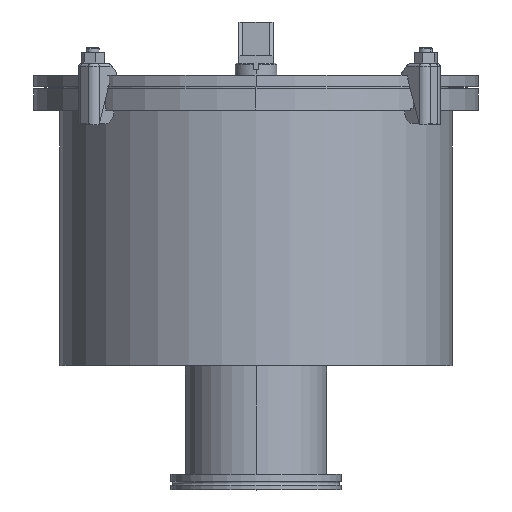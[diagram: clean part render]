
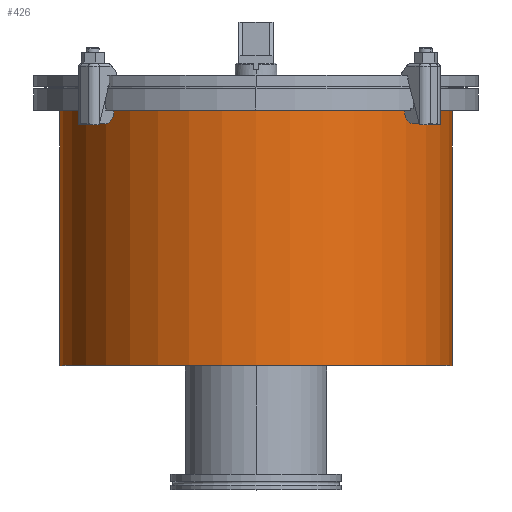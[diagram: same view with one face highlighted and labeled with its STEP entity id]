
A CAD part, top view. The second image highlights one B-rep face of the part: STEP entity #426.
In plain terms, the highlighted cylindrical face has radius 150 mm (diameter 300 mm), a full revolution.
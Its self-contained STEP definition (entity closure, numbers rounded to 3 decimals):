
#156=CARTESIAN_POINT('',(0.,0.,0.));
#157=DIRECTION('',(0.,-1.,0.));
#158=DIRECTION('',(0.866,0.,-0.5));
#159=AXIS2_PLACEMENT_3D('',#156,#157,#158);
#174=CARTESIAN_POINT('',(0.,200.,0.));
#175=DIRECTION('',(0.,1.,0.));
#176=DIRECTION('',(0.866,0.,-0.5));
#177=AXIS2_PLACEMENT_3D('',#174,#175,#176);
#179=DIRECTION('',(0.,-1.,0.));
#180=VECTOR('',#179,200.);
#181=CARTESIAN_POINT('',(129.929,200.,-74.957));
#182=LINE('',#181,#180);
#183=DIRECTION('',(0.,1.,0.));
#184=VECTOR('',#183,200.);
#185=CARTESIAN_POINT('',(129.879,0.,
-75.043));
#186=LINE('',#185,#184);
#187=CARTESIAN_POINT('',(-54.25,125.,-139.846));
#188=CARTESIAN_POINT('',(-54.25,127.993,-139.846));
#189=CARTESIAN_POINT('',(-53.77,134.,-140.034));
#190=CARTESIAN_POINT('',(-51.362,143.357,-140.946));
#191=CARTESIAN_POINT('',(-47.26,152.211,-142.39));
#192=CARTESIAN_POINT('',(-41.777,160.049,-144.113));
#193=CARTESIAN_POINT('',(-34.94,166.867,-145.939));
#194=CARTESIAN_POINT('',(-27.15,172.282,-147.601));
#195=CARTESIAN_POINT('',(-18.596,176.249,-148.931));
#196=CARTESIAN_POINT('',(-9.561,178.678,-149.792));
#197=CARTESIAN_POINT('',(-0.032,179.534,
-150.103));
#198=CARTESIAN_POINT('',(9.501,178.688,-149.795));
#199=CARTESIAN_POINT('',(18.526,176.275,-148.94));
#200=CARTESIAN_POINT('',(27.164,172.286,-147.601));
#201=CARTESIAN_POINT('',(35.085,166.752,-145.905));
#202=CARTESIAN_POINT('',(41.851,159.946,-144.089));
#203=CARTESIAN_POINT('',(47.222,152.257,-142.402));
#204=CARTESIAN_POINT('',(51.296,143.527,-140.971));
#205=CARTESIAN_POINT('',(53.739,134.206,-140.046));
#206=CARTESIAN_POINT('',(54.25,128.081,-139.846));
#207=CARTESIAN_POINT('',(54.25,125.,-139.846));
#209=CARTESIAN_POINT('',(54.25,125.,-139.846));
#210=CARTESIAN_POINT('',(54.25,121.918,-139.846));
#211=CARTESIAN_POINT('',(53.739,115.791,-140.046));
#212=CARTESIAN_POINT('',(51.292,106.462,-140.972));
#213=CARTESIAN_POINT('',(47.218,97.737,-142.403));
#214=CARTESIAN_POINT('',(41.845,90.046,-144.091));
#215=CARTESIAN_POINT('',(35.073,83.238,-145.908));
#216=CARTESIAN_POINT('',(27.151,77.707,-147.604));
#217=CARTESIAN_POINT('',(18.517,73.722,-148.941));
#218=CARTESIAN_POINT('',(9.488,71.31,-149.796));
#219=CARTESIAN_POINT('',(-0.051,70.466,
-150.103));
#220=CARTESIAN_POINT('',(-9.576,71.325,-149.791));
#221=CARTESIAN_POINT('',(-18.606,73.755,-148.93));
#222=CARTESIAN_POINT('',(-27.161,77.724,-147.599));
#223=CARTESIAN_POINT('',(-34.949,83.14,-145.937));
#224=CARTESIAN_POINT('',(-41.787,89.962,-144.11));
#225=CARTESIAN_POINT('',(-47.271,97.806,-142.387));
#226=CARTESIAN_POINT('',(-51.372,106.67,-140.943));
#227=CARTESIAN_POINT('',(-53.772,116.018,-140.033));
#228=CARTESIAN_POINT('',(-54.25,122.014,-139.846));
#229=CARTESIAN_POINT('',(-54.25,125.,-139.846));
#231=CARTESIAN_POINT('',(6.,14.,-149.88));
#232=CARTESIAN_POINT('',(6.,14.58,-149.88));
#233=CARTESIAN_POINT('',(5.839,15.692,-149.887));
#234=CARTESIAN_POINT('',(5.126,17.277,-149.913));
#235=CARTESIAN_POINT('',(3.983,18.596,-149.949));
#236=CARTESIAN_POINT('',(2.541,19.527,-149.981));
#237=CARTESIAN_POINT('',(0.854,20.022,-150.001));
#238=CARTESIAN_POINT('',(-0.858,20.021,
-150.001));
#239=CARTESIAN_POINT('',(-2.541,19.527,-149.981));
#240=CARTESIAN_POINT('',(-3.985,18.593,-149.949));
#241=CARTESIAN_POINT('',(-5.124,17.281,-149.913));
#242=CARTESIAN_POINT('',(-5.839,15.692,-149.887));
#243=CARTESIAN_POINT('',(-6.,14.58,-149.88));
#244=CARTESIAN_POINT('',(-6.,14.,-149.88));
#246=CARTESIAN_POINT('',(-6.,14.,-149.88));
#247=CARTESIAN_POINT('',(-6.,13.42,-149.88));
#248=CARTESIAN_POINT('',(-5.839,12.308,-149.887));
#249=CARTESIAN_POINT('',(-5.126,10.723,-149.913));
#250=CARTESIAN_POINT('',(-3.983,9.404,-149.949));
#251=CARTESIAN_POINT('',(-2.541,8.473,-149.981));
#252=CARTESIAN_POINT('',(-0.854,7.978,
-150.001));
#253=CARTESIAN_POINT('',(0.858,7.979,-150.001));
#254=CARTESIAN_POINT('',(2.541,8.473,-149.981));
#255=CARTESIAN_POINT('',(3.985,9.407,-149.949));
#256=CARTESIAN_POINT('',(5.124,10.719,-149.913));
#257=CARTESIAN_POINT('',(5.839,12.308,-149.887));
#258=CARTESIAN_POINT('',(6.,13.42,-149.88));
#259=CARTESIAN_POINT('',(6.,14.,-149.88));
#360=CARTESIAN_POINT('',(129.929,200.,-74.957));
#361=CARTESIAN_POINT('',(129.879,200.,-75.043));
#362=VERTEX_POINT('',#360);
#363=VERTEX_POINT('',#361);
#368=CARTESIAN_POINT('',(129.929,0.,
-74.957));
#369=CARTESIAN_POINT('',(129.879,0.,
-75.043));
#370=VERTEX_POINT('',#368);
#371=VERTEX_POINT('',#369);
#376=VERTEX_POINT('',#207);
#377=VERTEX_POINT('',#187);
#380=VERTEX_POINT('',#231);
#381=VERTEX_POINT('',#244);
#400=CARTESIAN_POINT('',(0.,200.,0.));
#401=DIRECTION('',(0.,-1.,0.));
#402=DIRECTION('',(0.,0.,-1.));
#403=AXIS2_PLACEMENT_3D('',#400,#401,#402);
#404=CYLINDRICAL_SURFACE('',#403,150.);
#406=ORIENTED_EDGE('',*,*,#405,.T.);
#408=ORIENTED_EDGE('',*,*,#407,.T.);
#409=ORIENTED_EDGE('',*,*,#389,.T.);
#411=ORIENTED_EDGE('',*,*,#410,.T.);
#412=EDGE_LOOP('',(#406,#408,#409,#411));
#413=FACE_OUTER_BOUND('',#412,.F.);
#415=ORIENTED_EDGE('',*,*,#414,.T.);
#417=ORIENTED_EDGE('',*,*,#416,.T.);
#418=EDGE_LOOP('',(#415,#417));
#419=FACE_BOUND('',#418,.F.);
#421=ORIENTED_EDGE('',*,*,#420,.F.);
#423=ORIENTED_EDGE('',*,*,#422,.F.);
#424=EDGE_LOOP('',(#421,#423));
#425=FACE_BOUND('',#424,.F.);
#426=ADVANCED_FACE('',(#413,#419,#425),#404,.T.);
#160=CIRCLE('',#159,150.);
#178=CIRCLE('',#177,150.);
#208=B_SPLINE_CURVE_WITH_KNOTS('',3,(#187,#188,#189,#190,#191,#192,#193,#194,
#195,#196,#197,#198,#199,#200,#201,#202,#203,#204,#205,#206,#207),.UNSPECIFIED.,
.F.,.F.,(4,1,1,1,1,1,1,1,1,1,1,1,1,1,1,1,1,1,4),(0.,0.056,
0.111,0.167,0.222,0.278,
0.333,0.389,0.444,0.5,0.556,
0.611,0.667,0.722,0.778,
0.833,0.889,0.944,1.),.UNSPECIFIED.);
#230=B_SPLINE_CURVE_WITH_KNOTS('',3,(#209,#210,#211,#212,#213,#214,#215,#216,
#217,#218,#219,#220,#221,#222,#223,#224,#225,#226,#227,#228,#229),.UNSPECIFIED.,
.F.,.F.,(4,1,1,1,1,1,1,1,1,1,1,1,1,1,1,1,1,1,4),(0.,0.056,
0.111,0.167,0.222,0.278,
0.333,0.389,0.444,0.5,0.556,
0.611,0.667,0.722,0.778,
0.833,0.889,0.944,1.),.UNSPECIFIED.);
#245=B_SPLINE_CURVE_WITH_KNOTS('',3,(#231,#232,#233,#234,#235,#236,#237,#238,
#239,#240,#241,#242,#243,#244),.UNSPECIFIED.,.F.,.F.,(4,1,1,1,1,1,1,1,1,1,1,4),(
0.,0.091,0.182,0.273,0.364,
0.455,0.545,0.636,0.727,
0.818,0.909,1.),.UNSPECIFIED.);
#260=B_SPLINE_CURVE_WITH_KNOTS('',3,(#246,#247,#248,#249,#250,#251,#252,#253,
#254,#255,#256,#257,#258,#259),.UNSPECIFIED.,.F.,.F.,(4,1,1,1,1,1,1,1,1,1,1,4),(
0.,0.091,0.182,0.273,0.364,
0.455,0.545,0.636,0.727,
0.818,0.909,1.),.UNSPECIFIED.);
#389=EDGE_CURVE('',#370,#371,#160,.T.);
#405=EDGE_CURVE('',#363,#362,#178,.T.);
#407=EDGE_CURVE('',#362,#370,#182,.T.);
#410=EDGE_CURVE('',#371,#363,#186,.T.);
#414=EDGE_CURVE('',#377,#376,#208,.T.);
#416=EDGE_CURVE('',#376,#377,#230,.T.);
#420=EDGE_CURVE('',#380,#381,#245,.T.);
#422=EDGE_CURVE('',#381,#380,#260,.T.);
